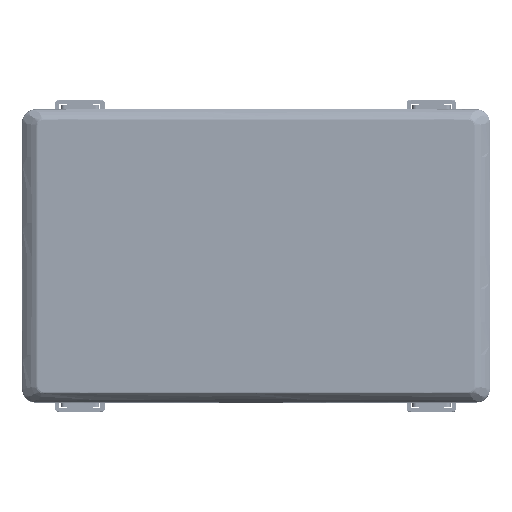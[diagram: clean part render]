
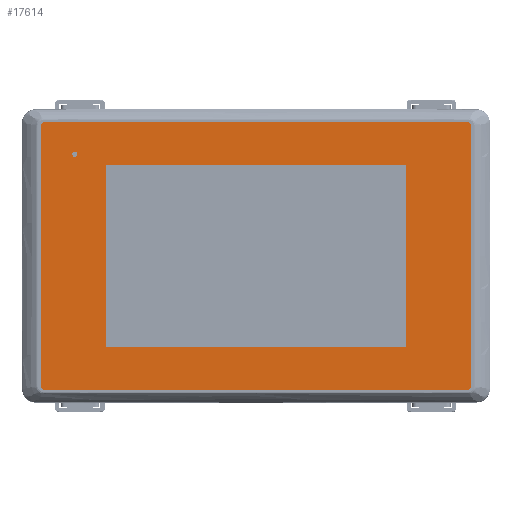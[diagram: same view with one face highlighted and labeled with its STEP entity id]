
A CAD part, top view. The second image highlights one B-rep face of the part: STEP entity #17614.
In plain terms, the highlighted planar face has unit normal (0, 0, 1).
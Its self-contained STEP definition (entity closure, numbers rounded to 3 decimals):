
#1480 = LINE ( 'NONE', #43536, #130367 ) ;
#3137 = FACE_BOUND ( 'NONE', #198869, .T. ) ;
#6778 = DIRECTION ( 'NONE',  ( 0., 0., 1. ) ) ;
#7384 = CARTESIAN_POINT ( 'NONE',  ( 76.4, -46.9, 5.33 ) ) ;
#8437 = EDGE_CURVE ( 'NONE', #186640, #83229, #187818, .T. ) ;
#12539 = VECTOR ( 'NONE', #125094, 1000. ) ;
#13549 = LINE ( 'NONE', #96929, #54715 ) ;
#13900 = ORIENTED_EDGE ( 'NONE', *, *, #207720, .F. ) ;
#17614 = ADVANCED_FACE ( 'NONE', ( #66417, #184093, #3137 ), #70401, .T. ) ;
#19680 = EDGE_CURVE ( 'NONE', #172899, #85929, #133068, .T. ) ;
#25036 = DIRECTION ( 'NONE',  ( -1., 0., 0. ) ) ;
#26701 = DIRECTION ( 'NONE',  ( -1., 0., 0. ) ) ;
#27295 = CIRCLE ( 'NONE', #152976, 2. ) ;
#35139 = DIRECTION ( 'NONE',  ( 0., 0., 1. ) ) ;
#35797 = CARTESIAN_POINT ( 'NONE',  ( -76.4, 46.9, 5.33 ) ) ;
#41748 = CARTESIAN_POINT ( 'NONE',  ( -76.4, -48.9, 5.33 ) ) ;
#43536 = CARTESIAN_POINT ( 'NONE',  ( -76.4, 48.9, 5.33 ) ) ;
#43835 = CARTESIAN_POINT ( 'NONE',  ( 78.4, 46.9, 5.33 ) ) ;
#44310 = ORIENTED_EDGE ( 'NONE', *, *, #77126, .T. ) ;
#46945 = VERTEX_POINT ( 'NONE', #149862 ) ;
#47742 = EDGE_CURVE ( 'NONE', #144780, #219499, #210338, .T. ) ;
#53448 = DIRECTION ( 'NONE',  ( 1., 0., 0. ) ) ;
#54715 = VECTOR ( 'NONE', #184068, 1000. ) ;
#56001 = CARTESIAN_POINT ( 'NONE',  ( 78.4, 46.9, 5.33 ) ) ;
#57064 = VECTOR ( 'NONE', #216253, 1000. ) ;
#59214 = LINE ( 'NONE', #72302, #12539 ) ;
#63593 = VERTEX_POINT ( 'NONE', #204140 ) ;
#66417 = FACE_BOUND ( 'NONE', #130088, .T. ) ;
#68187 = CARTESIAN_POINT ( 'NONE',  ( -76.4, -46.9, 5.33 ) ) ;
#69068 = AXIS2_PLACEMENT_3D ( 'NONE', #206704, #101947, #224341 ) ;
#69406 = EDGE_CURVE ( 'NONE', #85929, #156836, #191335, .T. ) ;
#70401 = PLANE ( 'NONE',  #174439 ) ;
#70696 = VERTEX_POINT ( 'NONE', #115427 ) ;
#71816 = ORIENTED_EDGE ( 'NONE', *, *, #136730, .T. ) ;
#72123 = VERTEX_POINT ( 'NONE', #101440 ) ;
#72302 = CARTESIAN_POINT ( 'NONE',  ( 54.7, 46.9, 5.33 ) ) ;
#72384 = CARTESIAN_POINT ( 'NONE',  ( -76.4, 48.9, 5.33 ) ) ;
#74293 = DIRECTION ( 'NONE',  ( 0., 0., 1. ) ) ;
#77126 = EDGE_CURVE ( 'NONE', #219499, #221861, #13549, .T. ) ;
#78922 = CARTESIAN_POINT ( 'NONE',  ( 76.4, -48.9, 5.33 ) ) ;
#83229 = VERTEX_POINT ( 'NONE', #87529 ) ;
#84076 = EDGE_CURVE ( 'NONE', #46945, #63593, #209529, .T. ) ;
#85854 = DIRECTION ( 'NONE',  ( -1., 0., 0. ) ) ;
#85929 = VERTEX_POINT ( 'NONE', #41748 ) ;
#87529 = CARTESIAN_POINT ( 'NONE',  ( 76.4, 48.9, 5.33 ) ) ;
#88751 = CIRCLE ( 'NONE', #174237, 0.925 ) ;
#89749 = CARTESIAN_POINT ( 'NONE',  ( -54.7, -33.1, 5.33 ) ) ;
#93938 = CARTESIAN_POINT ( 'NONE',  ( -76.4, -48.9, 5.33 ) ) ;
#96929 = CARTESIAN_POINT ( 'NONE',  ( -76.4, 33.1, 5.33 ) ) ;
#101440 = CARTESIAN_POINT ( 'NONE',  ( 54.7, -33.1, 5.33 ) ) ;
#101947 = DIRECTION ( 'NONE',  ( 0., 0., 1. ) ) ;
#109679 = ORIENTED_EDGE ( 'NONE', *, *, #152781, .T. ) ;
#111839 = CARTESIAN_POINT ( 'NONE',  ( 76.4, 46.9, 5.33 ) ) ;
#112621 = VECTOR ( 'NONE', #202355, 1000. ) ;
#115427 = CARTESIAN_POINT ( 'NONE',  ( -78.4, 46.9, 5.33 ) ) ;
#116537 = ORIENTED_EDGE ( 'NONE', *, *, #211674, .T. ) ;
#116737 = DIRECTION ( 'NONE',  ( 0., 1., 0. ) ) ;
#122476 = ORIENTED_EDGE ( 'NONE', *, *, #169605, .T. ) ;
#124283 = VERTEX_POINT ( 'NONE', #72384 ) ;
#125094 = DIRECTION ( 'NONE',  ( 0., -1., 0. ) ) ;
#129420 = DIRECTION ( 'NONE',  ( -1., 0., 0. ) ) ;
#130009 = DIRECTION ( 'NONE',  ( 0., 0., 1. ) ) ;
#130088 = EDGE_LOOP ( 'NONE', ( #171234, #150756, #44310, #116537 ) ) ;
#130367 = VECTOR ( 'NONE', #26701, 1000. ) ;
#130693 = EDGE_CURVE ( 'NONE', #70696, #172899, #219073, .T. ) ;
#132517 = AXIS2_PLACEMENT_3D ( 'NONE', #68187, #190646, #85854 ) ;
#133068 = CIRCLE ( 'NONE', #132517, 2. ) ;
#136730 = EDGE_CURVE ( 'NONE', #216004, #186640, #205695, .T. ) ;
#140145 = CARTESIAN_POINT ( 'NONE',  ( -66., 37., 5.33 ) ) ;
#144780 = VERTEX_POINT ( 'NONE', #89749 ) ;
#145228 = DIRECTION ( 'NONE',  ( 0., -1., 0. ) ) ;
#149862 = CARTESIAN_POINT ( 'NONE',  ( -66.925, 37., 5.33 ) ) ;
#150756 = ORIENTED_EDGE ( 'NONE', *, *, #47742, .T. ) ;
#151916 = CARTESIAN_POINT ( 'NONE',  ( -54.7, 46.9, 5.33 ) ) ;
#152781 = EDGE_CURVE ( 'NONE', #124283, #70696, #179341, .T. ) ;
#152976 = AXIS2_PLACEMENT_3D ( 'NONE', #7384, #130009, #25036 ) ;
#153403 = CARTESIAN_POINT ( 'NONE',  ( -78.4, -46.9, 5.33 ) ) ;
#153580 = CARTESIAN_POINT ( 'NONE',  ( 54.7, 33.1, 5.33 ) ) ;
#156836 = VERTEX_POINT ( 'NONE', #78922 ) ;
#157760 = DIRECTION ( 'NONE',  ( 1., 0., 0. ) ) ;
#158333 = VECTOR ( 'NONE', #116737, 1000. ) ;
#158399 = DIRECTION ( 'NONE',  ( 0., 0., 1. ) ) ;
#162133 = CARTESIAN_POINT ( 'NONE',  ( -78.4, 46.9, 5.33 ) ) ;
#165342 = ORIENTED_EDGE ( 'NONE', *, *, #84076, .F. ) ;
#169107 = CARTESIAN_POINT ( 'NONE',  ( -54.7, 33.1, 5.33 ) ) ;
#169605 = EDGE_CURVE ( 'NONE', #156836, #216004, #27295, .T. ) ;
#171234 = ORIENTED_EDGE ( 'NONE', *, *, #199615, .T. ) ;
#172899 = VERTEX_POINT ( 'NONE', #153403 ) ;
#174237 = AXIS2_PLACEMENT_3D ( 'NONE', #179048, #74293, #196699 ) ;
#174439 = AXIS2_PLACEMENT_3D ( 'NONE', #35797, #158399, #53448 ) ;
#177124 = ORIENTED_EDGE ( 'NONE', *, *, #8437, .T. ) ;
#179048 = CARTESIAN_POINT ( 'NONE',  ( -66., 37., 5.33 ) ) ;
#179109 = ORIENTED_EDGE ( 'NONE', *, *, #130693, .T. ) ;
#179341 = CIRCLE ( 'NONE', #69068, 2. ) ;
#181278 = EDGE_CURVE ( 'NONE', #83229, #124283, #1480, .T. ) ;
#184068 = DIRECTION ( 'NONE',  ( 1., 0., 0. ) ) ;
#184093 = FACE_OUTER_BOUND ( 'NONE', #217009, .T. ) ;
#184302 = AXIS2_PLACEMENT_3D ( 'NONE', #111839, #6778, #129420 ) ;
#186640 = VERTEX_POINT ( 'NONE', #56001 ) ;
#187818 = CIRCLE ( 'NONE', #184302, 2. ) ;
#190646 = DIRECTION ( 'NONE',  ( 0., 0., 1. ) ) ;
#191335 = LINE ( 'NONE', #93938, #57064 ) ;
#192265 = DIRECTION ( 'NONE',  ( -1., 0., 0. ) ) ;
#196699 = DIRECTION ( 'NONE',  ( 1., 0., 0. ) ) ;
#197510 = ORIENTED_EDGE ( 'NONE', *, *, #181278, .T. ) ;
#198682 = ORIENTED_EDGE ( 'NONE', *, *, #69406, .T. ) ;
#198869 = EDGE_LOOP ( 'NONE', ( #13900, #165342 ) ) ;
#199615 = EDGE_CURVE ( 'NONE', #72123, #144780, #211144, .T. ) ;
#202355 = DIRECTION ( 'NONE',  ( 0., 1., 0. ) ) ;
#204140 = CARTESIAN_POINT ( 'NONE',  ( -65.075, 37., 5.33 ) ) ;
#204971 = AXIS2_PLACEMENT_3D ( 'NONE', #140145, #35139, #157760 ) ;
#205661 = VECTOR ( 'NONE', #192265, 1000. ) ;
#205695 = LINE ( 'NONE', #43835, #112621 ) ;
#206704 = CARTESIAN_POINT ( 'NONE',  ( -76.4, 46.9, 5.33 ) ) ;
#207720 = EDGE_CURVE ( 'NONE', #63593, #46945, #88751, .T. ) ;
#209529 = CIRCLE ( 'NONE', #204971, 0.925 ) ;
#209833 = CARTESIAN_POINT ( 'NONE',  ( -76.4, -33.1, 5.33 ) ) ;
#210338 = LINE ( 'NONE', #151916, #158333 ) ;
#210928 = ORIENTED_EDGE ( 'NONE', *, *, #19680, .T. ) ;
#211144 = LINE ( 'NONE', #209833, #205661 ) ;
#211674 = EDGE_CURVE ( 'NONE', #221861, #72123, #59214, .T. ) ;
#213581 = VECTOR ( 'NONE', #145228, 1000. ) ;
#216004 = VERTEX_POINT ( 'NONE', #220105 ) ;
#216253 = DIRECTION ( 'NONE',  ( 1., 0., 0. ) ) ;
#217009 = EDGE_LOOP ( 'NONE', ( #177124, #197510, #109679, #179109, #210928, #198682, #122476, #71816 ) ) ;
#219073 = LINE ( 'NONE', #162133, #213581 ) ;
#219499 = VERTEX_POINT ( 'NONE', #169107 ) ;
#220105 = CARTESIAN_POINT ( 'NONE',  ( 78.4, -46.9, 5.33 ) ) ;
#221861 = VERTEX_POINT ( 'NONE', #153580 ) ;
#224341 = DIRECTION ( 'NONE',  ( -1., 0., 0. ) ) ;
